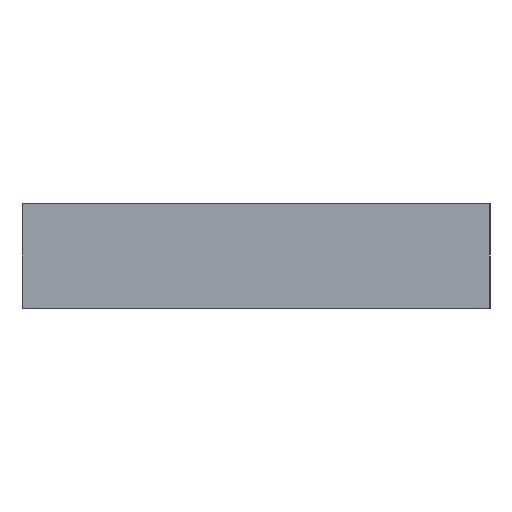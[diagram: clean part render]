
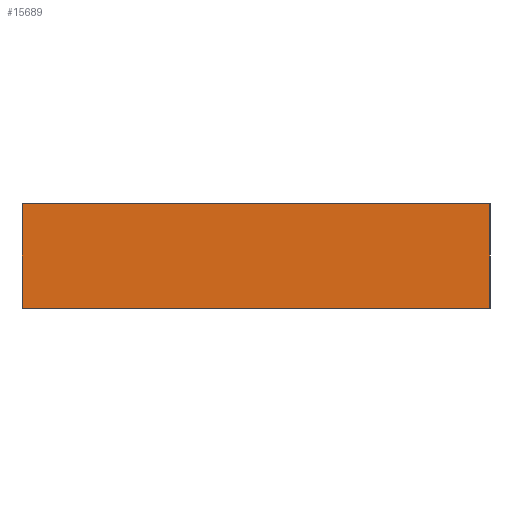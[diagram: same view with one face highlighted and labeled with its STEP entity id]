
A CAD part, left-side view. The second image highlights one B-rep face of the part: STEP entity #15689.
In plain terms, the highlighted planar face has unit normal (-1, 0, 0).
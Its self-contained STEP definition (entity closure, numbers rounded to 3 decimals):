
#277 = LINE ( 'NONE', #5445, #15107 ) ;
#333 = EDGE_CURVE ( 'NONE', #8978, #7102, #6771, .T. ) ;
#447 = VECTOR ( 'NONE', #16050, 1000. ) ;
#638 = VECTOR ( 'NONE', #3332, 1000. ) ;
#2654 = EDGE_CURVE ( 'NONE', #15525, #16206, #4346, .T. ) ;
#3332 = DIRECTION ( 'NONE',  ( 0., -1., 0. ) ) ;
#3342 = ORIENTED_EDGE ( 'NONE', *, *, #4696, .T. ) ;
#4006 = AXIS2_PLACEMENT_3D ( 'NONE', #5939, #9703, #4757 ) ;
#4150 = EDGE_LOOP ( 'NONE', ( #7515, #14188, #12871, #3342 ) ) ;
#4346 = LINE ( 'NONE', #4553, #638 ) ;
#4553 = CARTESIAN_POINT ( 'NONE',  ( -350., 110.5, 49.3 ) ) ;
#4695 = VECTOR ( 'NONE', #4856, 1000. ) ;
#4696 = EDGE_CURVE ( 'NONE', #15525, #8978, #277, .T. ) ;
#4757 = DIRECTION ( 'NONE',  ( 0., 0., -1. ) ) ;
#4856 = DIRECTION ( 'NONE',  ( 0., 0., -1. ) ) ;
#5445 = CARTESIAN_POINT ( 'NONE',  ( -350., 110.5, 49.3 ) ) ;
#5939 = CARTESIAN_POINT ( 'NONE',  ( -350., 110.5, 49.3 ) ) ;
#6771 = LINE ( 'NONE', #7206, #447 ) ;
#7102 = VERTEX_POINT ( 'NONE', #8837 ) ;
#7206 = CARTESIAN_POINT ( 'NONE',  ( -350., 110.5, 0. ) ) ;
#7515 = ORIENTED_EDGE ( 'NONE', *, *, #333, .T. ) ;
#7933 = CARTESIAN_POINT ( 'NONE',  ( -350., 110.5, 0. ) ) ;
#8379 = CARTESIAN_POINT ( 'NONE',  ( -350., -110.5, 49.3 ) ) ;
#8837 = CARTESIAN_POINT ( 'NONE',  ( -350., -110.5, 0. ) ) ;
#8978 = VERTEX_POINT ( 'NONE', #7933 ) ;
#9433 = DIRECTION ( 'NONE',  ( 0., 0., -1. ) ) ;
#9703 = DIRECTION ( 'NONE',  ( 1., 0., 0. ) ) ;
#9967 = CARTESIAN_POINT ( 'NONE',  ( -350., -110.5, 49.3 ) ) ;
#10780 = FACE_OUTER_BOUND ( 'NONE', #4150, .T. ) ;
#10856 = LINE ( 'NONE', #9967, #4695 ) ;
#11800 = CARTESIAN_POINT ( 'NONE',  ( -350., 110.5, 49.3 ) ) ;
#12871 = ORIENTED_EDGE ( 'NONE', *, *, #2654, .F. ) ;
#13409 = PLANE ( 'NONE',  #4006 ) ;
#13411 = EDGE_CURVE ( 'NONE', #16206, #7102, #10856, .T. ) ;
#14188 = ORIENTED_EDGE ( 'NONE', *, *, #13411, .F. ) ;
#15107 = VECTOR ( 'NONE', #9433, 1000. ) ;
#15525 = VERTEX_POINT ( 'NONE', #11800 ) ;
#15689 = ADVANCED_FACE ( 'NONE', ( #10780 ), #13409, .F. ) ;
#16050 = DIRECTION ( 'NONE',  ( 0., -1., 0. ) ) ;
#16206 = VERTEX_POINT ( 'NONE', #8379 ) ;
